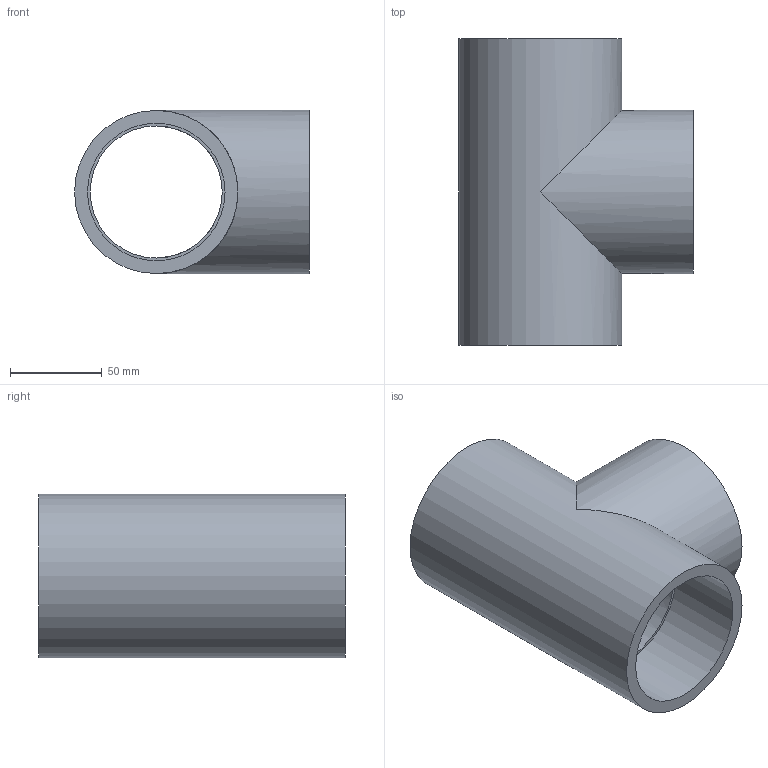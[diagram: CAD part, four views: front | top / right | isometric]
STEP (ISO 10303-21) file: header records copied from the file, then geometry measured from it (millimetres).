
FILE_DESCRIPTION(/* description */ ('PVC ti a 90° incollaggio metrico-filettato BSP femmina'),/* implementation_level */ '2;1');
FILE_NAME(/* name */ 'C:\Users\POLYPIPE\Desktop\DATASET INVENTOR\LIBRERIA EFFAST\RACCORDI 3DxWEB\RGR\3D_RGRTIG\3D_RGRTIG075H.stp',/* time_stamp */ '2018-01-19T17:54:12+01:00',/* author */ ('POLYPIPE'),/* organization */ ('Polypipe Italia s.r.l.'),/* preprocessor_version */ 'ST-DEVELOPER v16.1',/* originating_system */ 'Autodesk Inventor 2016',/* authorisation */ '');
FILE_SCHEMA (('CONFIG_CONTROL_DESIGN'));
Length unit declared in the file: millimetre
Products named in the file (1): 3D_RGRTIG
Bounding box: 128 x 167 x 89 mm (x, y, z)
Volume: 391676.2 mm3; surface area: 112543.9 mm2
Topology: 1 solids, 1 shells, 19 faces, 40 edges, 27 vertices
Faces by surface type: plane 7, cylinder 7, bspline 5
Full cylindrical faces by diameter (mm): 72 x2, 72.226 x1, 75 x2, 89 x2
Entity records: 5253 total; most frequent: CARTESIAN_POINT 4863, DIRECTION 69, ORIENTED_EDGE 64, EDGE_LOOP 33, AXIS2_PLACEMENT_3D 33, EDGE_CURVE 32, VERTEX_POINT 25, FACE_OUTER_BOUND 19
